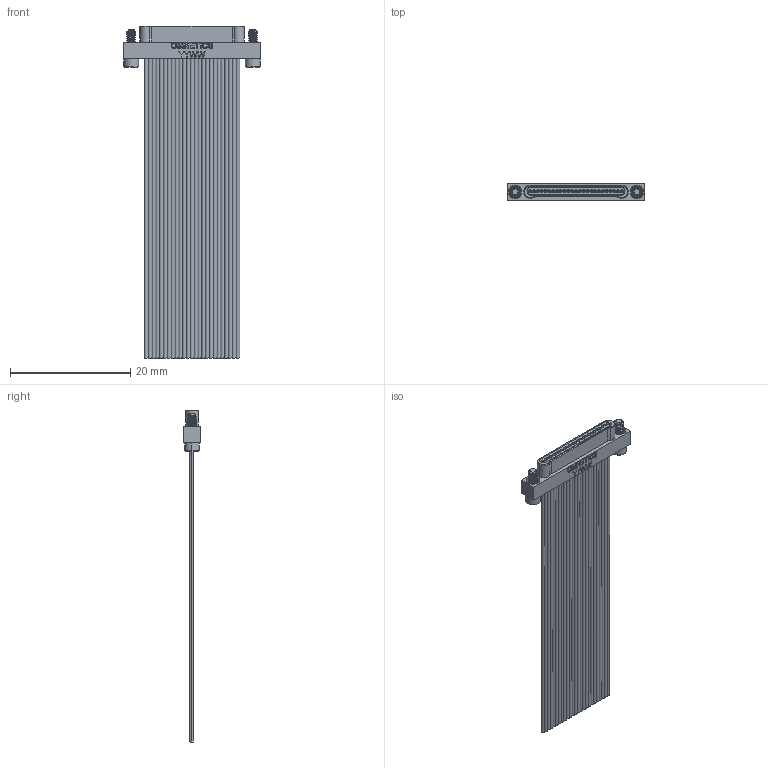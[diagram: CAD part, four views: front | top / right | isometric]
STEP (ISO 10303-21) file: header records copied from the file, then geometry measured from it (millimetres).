
FILE_DESCRIPTION (( 'STEP AP214' ), '1' );
FILE_NAME ('A54000-025 REV G.STEP', '2021-02-26T18:37:11', ( '' ), ( '' ), 'SwSTEP 2.0', 'SolidWorks 2019', '' );
FILE_SCHEMA (( 'AUTOMOTIVE_DESIGN' ));
Length unit declared in the file: inch
Products named in the file (1): A54000-025 REV G
Bounding box: 22.86 x 2.93 x 55.12 mm (x, y, z)
Volume: 614.8 mm3; surface area: 3307.9 mm2
Topology: 1 solids, 1 shells, 641 faces, 1476 edges, 970 vertices
Faces by surface type: cylinder 270, plane 266, bspline 54, cone 35, torus 16
Entity records: 31913 total; most frequent: CARTESIAN_POINT 8998, DIRECTION 3026, ORIENTED_EDGE 2952, EDGE_CURVE 1476, AXIS2_PLACEMENT_3D 1150, VERTEX_POINT 970, EDGE_LOOP 774, LINE 726
